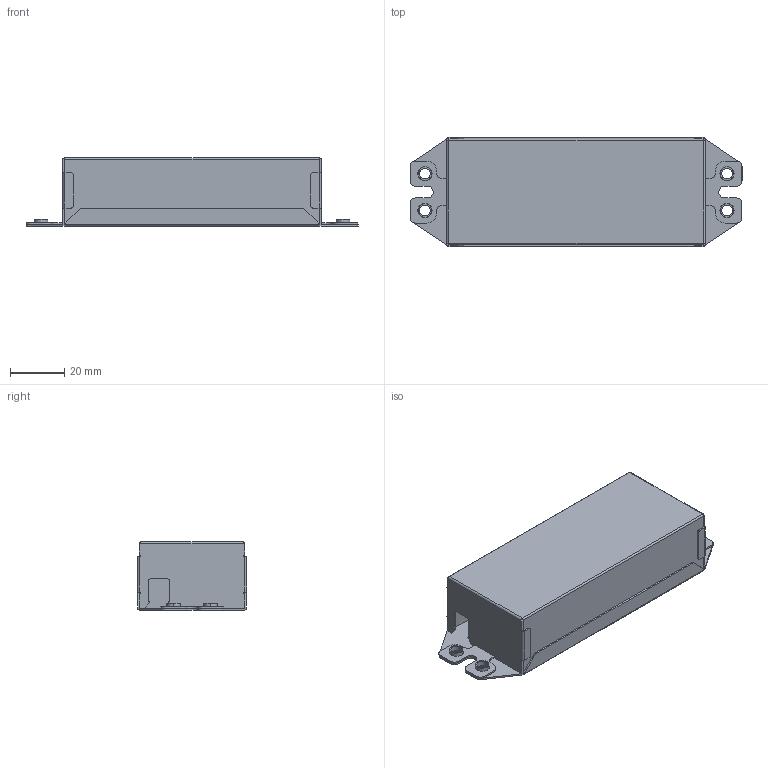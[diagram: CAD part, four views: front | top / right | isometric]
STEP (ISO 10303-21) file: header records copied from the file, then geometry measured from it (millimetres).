
FILE_DESCRIPTION (( 'STEP AP203' ), '1' );
FILE_NAME ('AK1.STEP', '2015-09-08T05:36:14', ( '·L³n¥Î¤á' ), ( '·L³n¤¤°ê' ), 'SwSTEP 2.0', 'SolidWorks 2010', '' );
FILE_SCHEMA (( 'CONFIG_CONTROL_DESIGN' ));
Length unit declared in the file: millimetre
Products named in the file (3): 511-00004450; 511-00004440; AK1
Assembly tree (2 placements, depth 2):
  AK1
    511-00004440
    511-00004450
Bounding box: 122 x 40.2 x 25 mm (x, y, z)
Volume: 9555.6 mm3; surface area: 32533.1 mm2
Topology: 2 solids, 2 shells, 308 faces, 788 edges, 488 vertices
Faces by surface type: plane 200, cylinder 92, torus 16
Entity records: 9529 total; most frequent: DIRECTION 1630, CARTESIAN_POINT 1589, ORIENTED_EDGE 1576, EDGE_CURVE 788, VECTOR 572, LINE 572, AXIS2_PLACEMENT_3D 529, VERTEX_POINT 488
